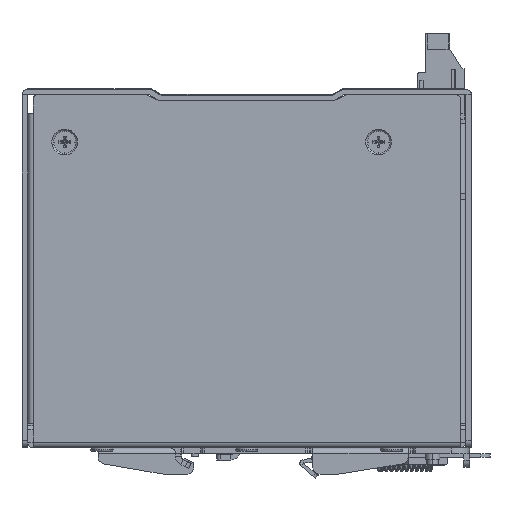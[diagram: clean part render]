
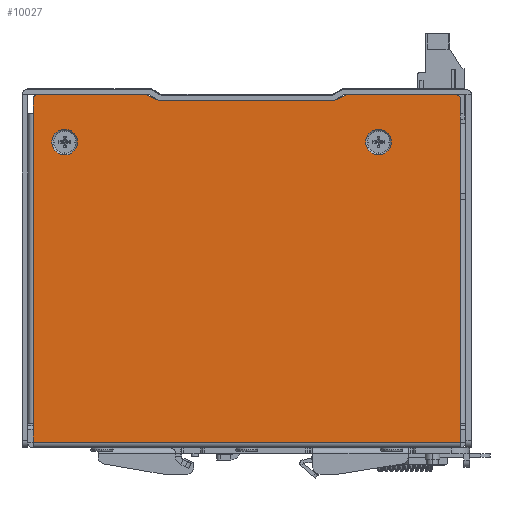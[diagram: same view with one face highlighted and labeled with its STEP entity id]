
A CAD part, left-side view. The second image highlights one B-rep face of the part: STEP entity #10027.
In plain terms, the highlighted planar face has unit normal (-1, 0, 0) as drawn and (1, 0, 0) by its records, which use the part's own axes.
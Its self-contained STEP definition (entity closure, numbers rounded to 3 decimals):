
#1706=CARTESIAN_POINT('',(72.,80.8,49.));
#1707=DIRECTION('',(-1.,0.,0.));
#1708=DIRECTION('',(0.,-1.,0.));
#1709=AXIS2_PLACEMENT_3D('',#1706,#1707,#1708);
#1714=CARTESIAN_POINT('',(72.,80.8,49.));
#1715=DIRECTION('',(-1.,0.,0.));
#1716=DIRECTION('',(0.,1.,0.));
#1717=AXIS2_PLACEMENT_3D('',#1714,#1715,#1716);
#1722=CARTESIAN_POINT('',(72.,80.8,-35.5));
#1723=DIRECTION('',(-1.,0.,0.));
#1724=DIRECTION('',(0.,-1.,0.));
#1725=AXIS2_PLACEMENT_3D('',#1722,#1723,#1724);
#1730=CARTESIAN_POINT('',(72.,80.8,-35.5));
#1731=DIRECTION('',(-1.,0.,0.));
#1732=DIRECTION('',(0.,1.,0.));
#1733=AXIS2_PLACEMENT_3D('',#1730,#1731,#1732);
#1738=CARTESIAN_POINT('',(72.,92.5,56.5));
#1739=DIRECTION('',(1.,0.,0.));
#1740=DIRECTION('',(0.,1.,0.));
#1741=AXIS2_PLACEMENT_3D('',#1738,#1739,#1740);
#1746=DIRECTION('',(0.,0.,-1.));
#1747=VECTOR('',#1746,29.506);
#1748=CARTESIAN_POINT('',(72.,93.5,56.5));
#1749=LINE('',#1748,#1747);
#1753=DIRECTION('',(0.,0.407,0.914));
#1754=VECTOR('',#1753,3.934);
#1755=CARTESIAN_POINT('',(72.,91.9,23.4));
#1756=LINE('',#1755,#1754);
#1760=DIRECTION('',(0.,0.,1.));
#1761=VECTOR('',#1760,46.8);
#1762=CARTESIAN_POINT('',(72.,91.9,-23.4));
#1763=LINE('',#1762,#1761);
#1767=DIRECTION('',(0.,-0.407,0.914));
#1768=VECTOR('',#1767,3.934);
#1769=CARTESIAN_POINT('',(72.,93.5,-26.994));
#1770=LINE('',#1769,#1768);
#1774=DIRECTION('',(0.,0.,-1.));
#1775=VECTOR('',#1774,29.506);
#1776=CARTESIAN_POINT('',(72.,93.5,-26.994));
#1777=LINE('',#1776,#1775);
#1781=CARTESIAN_POINT('',(72.,92.5,-56.5));
#1782=DIRECTION('',(1.,0.,0.));
#1783=DIRECTION('',(0.,0.,-1.));
#1784=AXIS2_PLACEMENT_3D('',#1781,#1782,#1783);
#1789=DIRECTION('',(0.,-1.,0.));
#1790=VECTOR('',#1789,6.6);
#1791=CARTESIAN_POINT('',(72.,92.5,-57.5));
#1792=LINE('',#1791,#1790);
#1796=DIRECTION('',(0.,-1.,0.));
#1797=VECTOR('',#1796,1.5);
#1798=CARTESIAN_POINT('',(72.,66.9,-57.5));
#1799=LINE('',#1798,#1797);
#1803=DIRECTION('',(0.,1.,0.));
#1804=VECTOR('',#1803,5.);
#1805=CARTESIAN_POINT('',(72.,0.,-57.5));
#1806=LINE('',#1805,#1804);
#1810=DIRECTION('',(0.,0.,1.));
#1811=VECTOR('',#1810,115.);
#1812=CARTESIAN_POINT('',(72.,0.,-57.5));
#1813=LINE('',#1812,#1811);
#1817=DIRECTION('',(0.,1.,0.));
#1818=VECTOR('',#1817,5.);
#1819=CARTESIAN_POINT('',(72.,0.,57.5));
#1820=LINE('',#1819,#1818);
#1824=DIRECTION('',(0.,-1.,0.));
#1825=VECTOR('',#1824,4.);
#1826=CARTESIAN_POINT('',(72.,92.5,57.5));
#1827=LINE('',#1826,#1825);
#1926=DIRECTION('',(0.,-1.,0.));
#1927=VECTOR('',#1926,83.5);
#1928=CARTESIAN_POINT('',(72.,88.5,57.5));
#1929=LINE('',#1928,#1927);
#2338=DIRECTION('',(0.,-1.,0.));
#2339=VECTOR('',#2338,19.);
#2340=CARTESIAN_POINT('',(72.,85.9,-57.5));
#2341=LINE('',#2340,#2339);
#3043=DIRECTION('',(0.,1.,0.));
#3044=VECTOR('',#3043,60.4);
#3045=CARTESIAN_POINT('',(72.,5.,-57.5));
#3046=LINE('',#3045,#3044);
#8129=CARTESIAN_POINT('',(72.,93.5,-26.994));
#8131=VERTEX_POINT('',#8129);
#8177=CARTESIAN_POINT('',(72.,0.,57.5));
#8178=CARTESIAN_POINT('',(72.,5.,57.5));
#8179=VERTEX_POINT('',#8177);
#8180=VERTEX_POINT('',#8178);
#8181=CARTESIAN_POINT('',(72.,88.5,57.5));
#8183=VERTEX_POINT('',#8181);
#8215=CARTESIAN_POINT('',(72.,0.,-57.5));
#8216=CARTESIAN_POINT('',(72.,5.,-57.5));
#8217=VERTEX_POINT('',#8215);
#8218=VERTEX_POINT('',#8216);
#8219=CARTESIAN_POINT('',(72.,65.4,-57.5));
#8221=VERTEX_POINT('',#8219);
#8321=CARTESIAN_POINT('',(72.,85.9,-57.5));
#8323=VERTEX_POINT('',#8321);
#8333=CARTESIAN_POINT('',(72.,66.9,-57.5));
#8335=VERTEX_POINT('',#8333);
#8489=CARTESIAN_POINT('',(72.,93.5,56.5));
#8490=CARTESIAN_POINT('',(72.,92.5,57.5));
#8491=VERTEX_POINT('',#8489);
#8492=VERTEX_POINT('',#8490);
#8525=CARTESIAN_POINT('',(72.,92.5,-57.5));
#8526=VERTEX_POINT('',#8525);
#8527=CARTESIAN_POINT('',(72.,93.5,-56.5));
#8528=VERTEX_POINT('',#8527);
#8529=CARTESIAN_POINT('',(72.,93.5,26.994));
#8530=VERTEX_POINT('',#8529);
#8589=CARTESIAN_POINT('',(72.,77.35,49.));
#8590=CARTESIAN_POINT('',(72.,84.25,49.));
#8591=VERTEX_POINT('',#8589);
#8592=VERTEX_POINT('',#8590);
#8597=CARTESIAN_POINT('',(72.,77.35,-35.5));
#8598=CARTESIAN_POINT('',(72.,84.25,-35.5));
#8599=VERTEX_POINT('',#8597);
#8600=VERTEX_POINT('',#8598);
#8725=CARTESIAN_POINT('',(72.,91.9,23.4));
#8726=VERTEX_POINT('',#8725);
#8727=CARTESIAN_POINT('',(72.,91.9,-23.4));
#8728=VERTEX_POINT('',#8727);
#9980=CARTESIAN_POINT('',(72.,0.,57.5));
#9981=DIRECTION('',(-1.,0.,0.));
#9982=DIRECTION('',(0.,0.,1.));
#9983=AXIS2_PLACEMENT_3D('',#9980,#9981,#9982);
#9984=PLANE('',#9983);
#9986=ORIENTED_EDGE('',*,*,#9985,.F.);
#9988=ORIENTED_EDGE('',*,*,#9987,.T.);
#9990=ORIENTED_EDGE('',*,*,#9989,.F.);
#9992=ORIENTED_EDGE('',*,*,#9991,.F.);
#9994=ORIENTED_EDGE('',*,*,#9993,.F.);
#9996=ORIENTED_EDGE('',*,*,#9995,.T.);
#9998=ORIENTED_EDGE('',*,*,#9997,.F.);
#10000=ORIENTED_EDGE('',*,*,#9999,.T.);
#10002=ORIENTED_EDGE('',*,*,#10001,.T.);
#10004=ORIENTED_EDGE('',*,*,#10003,.T.);
#10006=ORIENTED_EDGE('',*,*,#10005,.F.);
#10007=ORIENTED_EDGE('',*,*,#9860,.F.);
#10008=ORIENTED_EDGE('',*,*,#9878,.T.);
#10009=ORIENTED_EDGE('',*,*,#9892,.T.);
#10011=ORIENTED_EDGE('',*,*,#10010,.F.);
#10013=ORIENTED_EDGE('',*,*,#10012,.F.);
#10014=EDGE_LOOP('',(#9986,#9988,#9990,#9992,#9994,#9996,#9998,#10000,#10002,
#10004,#10006,#10007,#10008,#10009,#10011,#10013));
#10015=FACE_OUTER_BOUND('',#10014,.F.);
#10017=ORIENTED_EDGE('',*,*,#10016,.F.);
#10019=ORIENTED_EDGE('',*,*,#10018,.F.);
#10020=EDGE_LOOP('',(#10017,#10019));
#10021=FACE_BOUND('',#10020,.F.);
#10023=ORIENTED_EDGE('',*,*,#10022,.F.);
#10024=ORIENTED_EDGE('',*,*,#9970,.F.);
#10025=EDGE_LOOP('',(#10023,#10024));
#10026=FACE_BOUND('',#10025,.F.);
#1710=CIRCLE('',#1709,3.45);
#1718=CIRCLE('',#1717,3.45);
#1726=CIRCLE('',#1725,3.45);
#1734=CIRCLE('',#1733,3.45);
#1742=CIRCLE('',#1741,1.);
#1785=CIRCLE('',#1784,1.);
#9860=EDGE_CURVE('',#8217,#8218,#1806,.T.);
#9878=EDGE_CURVE('',#8217,#8179,#1813,.T.);
#9892=EDGE_CURVE('',#8179,#8180,#1820,.T.);
#9970=EDGE_CURVE('',#8592,#8591,#1718,.T.);
#9985=EDGE_CURVE('',#8491,#8492,#1742,.T.);
#9987=EDGE_CURVE('',#8491,#8530,#1749,.T.);
#9989=EDGE_CURVE('',#8726,#8530,#1756,.T.);
#9991=EDGE_CURVE('',#8728,#8726,#1763,.T.);
#9993=EDGE_CURVE('',#8131,#8728,#1770,.T.);
#9995=EDGE_CURVE('',#8131,#8528,#1777,.T.);
#9997=EDGE_CURVE('',#8526,#8528,#1785,.T.);
#9999=EDGE_CURVE('',#8526,#8323,#1792,.T.);
#10001=EDGE_CURVE('',#8323,#8335,#2341,.T.);
#10003=EDGE_CURVE('',#8335,#8221,#1799,.T.);
#10005=EDGE_CURVE('',#8218,#8221,#3046,.T.);
#10010=EDGE_CURVE('',#8183,#8180,#1929,.T.);
#10012=EDGE_CURVE('',#8492,#8183,#1827,.T.);
#10016=EDGE_CURVE('',#8599,#8600,#1726,.T.);
#10018=EDGE_CURVE('',#8600,#8599,#1734,.T.);
#10022=EDGE_CURVE('',#8591,#8592,#1710,.T.);
#10027=ADVANCED_FACE('',(#10015,#10021,#10026),#9984,.F.);
